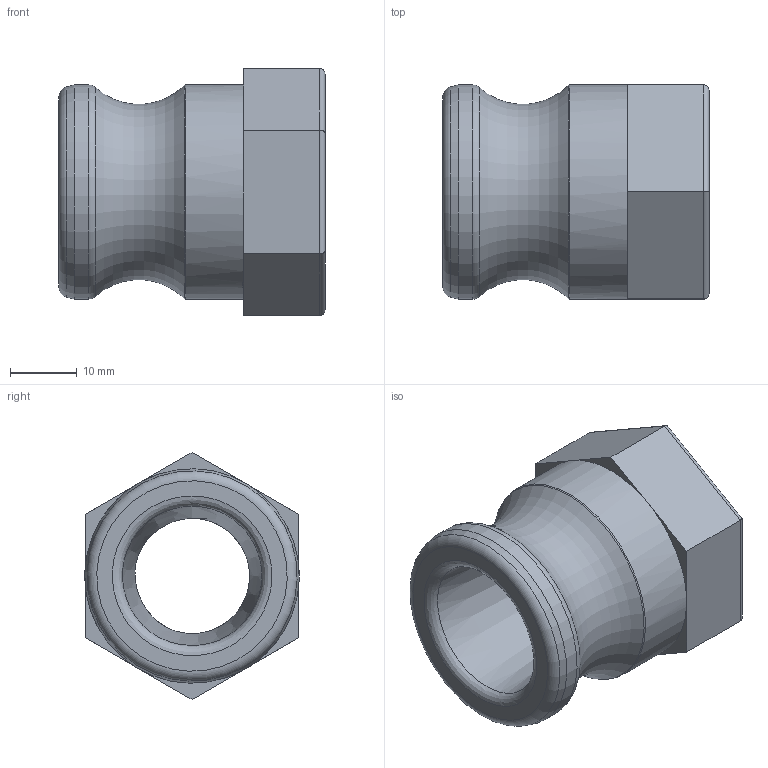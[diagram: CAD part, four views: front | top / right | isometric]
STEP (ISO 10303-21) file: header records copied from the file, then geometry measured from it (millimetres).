
FILE_DESCRIPTION(/* description */ ('Alibre Inc.'),/* implementation_level */ '2;1');
FILE_NAME(/* name */ 'export0',/* time_stamp */ '2015-12-29T12:52:26-05:00',/* author */ (''),/* organization */ (''),/* preprocessor_version */ 'ST-DEVELOPER v14',/* originating_system */ 'Alibre',/* authorisation */ '');
FILE_SCHEMA (('CONFIG_CONTROL_DESIGN'));
Length unit declared in the file: centimetre
Products named in the file (1): ID_1
Bounding box: 39.88 x 32.1 x 37.01 mm (x, y, z)
Volume: 18857.4 mm3; surface area: 8198.4 mm2
Topology: 1 solids, 1 shells, 70 faces, 177 edges, 110 vertices
Faces by surface type: cone 31, plane 20, cylinder 9, bspline 7, torus 3
Full cylindrical faces by diameter (mm): 17.272 x1, 32.106 x2
Entity records: 24033 total; most frequent: CARTESIAN_POINT 22547, ORIENTED_EDGE 334, DIRECTION 205, EDGE_CURVE 167, VERTEX_POINT 108, AXIS2_PLACEMENT_3D 84, EDGE_LOOP 81, FACE_BOUND 81
